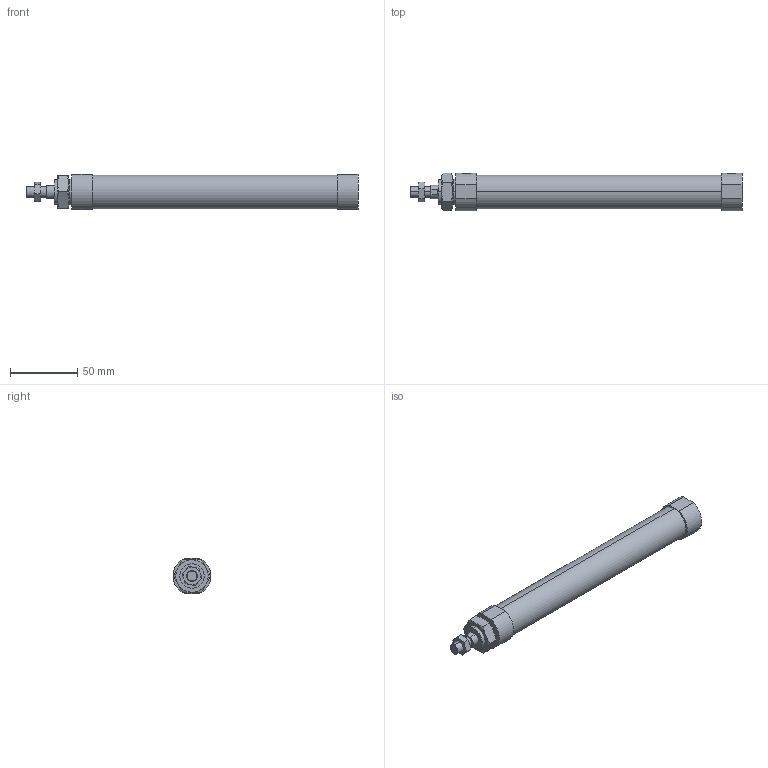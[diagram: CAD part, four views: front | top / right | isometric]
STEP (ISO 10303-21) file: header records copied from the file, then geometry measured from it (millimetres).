
FILE_DESCRIPTION (( 'STEP AP203' ), '1' );
FILE_NAME ('JGND2-20-150-N.STEP', '2016-08-04T02:33:46', ( '' ), ( '' ), 'SwSTEP 2.0', 'SolidWorks 2014', '' );
FILE_SCHEMA (( 'CONFIG_CONTROL_DESIGN' ));
Length unit declared in the file: millimetre
Products named in the file (4): JGND2-20-150-N; J#2-20-150(P)
Assembly tree (3 placements, depth 2):
  JGND2-20-150-N
    J#2-20-150(P)
    (unnamed)
    (unnamed)
Bounding box: 246 x 28 x 26 mm (x, y, z)
Volume: 113223.1 mm3; surface area: 22499.9 mm2
Topology: 3 solids, 3 shells, 84 faces, 182 edges, 112 vertices
Faces by surface type: plane 34, torus 24, cylinder 22, cone 4
Entity records: 3040 total; most frequent: CARTESIAN_POINT 840, DIRECTION 378, ORIENTED_EDGE 364, EDGE_CURVE 182, AXIS2_PLACEMENT_3D 162, VERTEX_POINT 112, EDGE_LOOP 96, FACE_OUTER_BOUND 84
